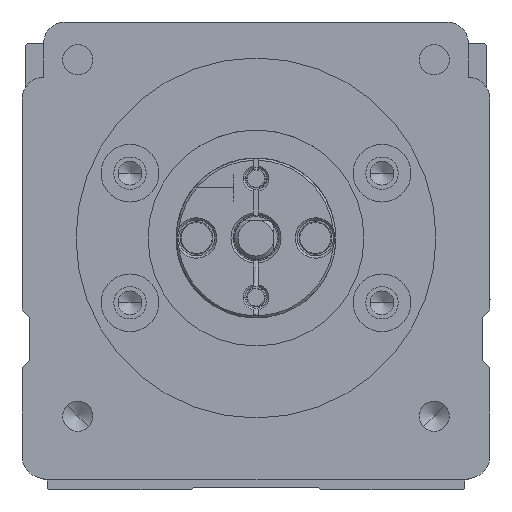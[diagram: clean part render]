
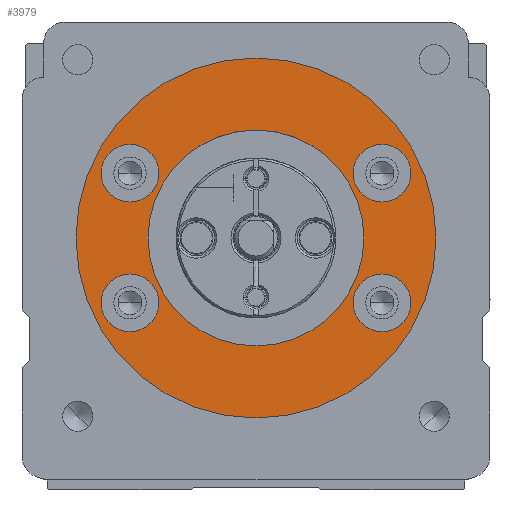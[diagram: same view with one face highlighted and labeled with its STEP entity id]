
A CAD part, front view. The second image highlights one B-rep face of the part: STEP entity #3979.
In plain terms, the highlighted planar face has unit normal (0, -1, 0).
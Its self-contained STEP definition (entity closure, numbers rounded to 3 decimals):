
#3979=ADVANCED_FACE('',(#9441,#9442,#9443,#9444,#9445,#9446),#9447,.F.);
#9441=FACE_BOUND('',#17365,.T.);
#9442=FACE_BOUND('',#17366,.T.);
#9443=FACE_BOUND('',#17367,.T.);
#9444=FACE_BOUND('',#17368,.T.);
#9445=FACE_BOUND('',#17369,.T.);
#9446=FACE_OUTER_BOUND('',#17370,.T.);
#9447=PLANE('',#17371);
#17365=EDGE_LOOP('',(#28212,#28213));
#17366=EDGE_LOOP('',(#28214,#28215));
#17367=EDGE_LOOP('',(#28216,#28217));
#17368=EDGE_LOOP('',(#28218,#28219));
#17369=EDGE_LOOP('',(#28220,#28221));
#17370=EDGE_LOOP('',(#28222,#28223));
#17371=AXIS2_PLACEMENT_3D('',#28224,#28225,#28226);
#28212=ORIENTED_EDGE('',*,*,#47703,.T.);
#28213=ORIENTED_EDGE('',*,*,#47704,.T.);
#28214=ORIENTED_EDGE('',*,*,#47705,.T.);
#28215=ORIENTED_EDGE('',*,*,#46357,.T.);
#28216=ORIENTED_EDGE('',*,*,#47706,.T.);
#28217=ORIENTED_EDGE('',*,*,#47707,.T.);
#28218=ORIENTED_EDGE('',*,*,#47708,.T.);
#28219=ORIENTED_EDGE('',*,*,#47709,.T.);
#28220=ORIENTED_EDGE('',*,*,#47629,.T.);
#28221=ORIENTED_EDGE('',*,*,#47710,.T.);
#28222=ORIENTED_EDGE('',*,*,#46348,.T.);
#28223=ORIENTED_EDGE('',*,*,#47298,.T.);
#28224=CARTESIAN_POINT('',(300.,115.0,0.));
#28225=DIRECTION('',(0.,1.0,0.));
#28226=DIRECTION('',(1.0,0.,0.));
#46348=EDGE_CURVE('',#55655,#55660,#55662,.T.);
#46357=EDGE_CURVE('',#55671,#55675,#55677,.T.);
#47298=EDGE_CURVE('',#55660,#55655,#57266,.T.);
#47629=EDGE_CURVE('',#57822,#57820,#57823,.T.);
#47703=EDGE_CURVE('',#57946,#57947,#57948,.T.);
#47704=EDGE_CURVE('',#57947,#57946,#57949,.T.);
#47705=EDGE_CURVE('',#55675,#55671,#57950,.T.);
#47706=EDGE_CURVE('',#57951,#57952,#57953,.T.);
#47707=EDGE_CURVE('',#57952,#57951,#57954,.T.);
#47708=EDGE_CURVE('',#57955,#57956,#57957,.T.);
#47709=EDGE_CURVE('',#57956,#57955,#57958,.T.);
#47710=EDGE_CURVE('',#57820,#57822,#57959,.T.);
#55655=VERTEX_POINT('',#68807);
#55660=VERTEX_POINT('',#68813);
#55662=CIRCLE('',#68816,25.0);
#55671=VERTEX_POINT('',#68828);
#55675=VERTEX_POINT('',#68833);
#55677=CIRCLE('',#68836,4.0);
#57266=CIRCLE('',#71131,25.0);
#57820=VERTEX_POINT('',#71928);
#57822=VERTEX_POINT('',#71931);
#57823=CIRCLE('',#71932,15.0);
#57946=VERTEX_POINT('',#72194);
#57947=VERTEX_POINT('',#72195);
#57948=CIRCLE('',#72196,4.0);
#57949=CIRCLE('',#72197,4.0);
#57950=CIRCLE('',#72198,4.0);
#57951=VERTEX_POINT('',#72199);
#57952=VERTEX_POINT('',#72200);
#57953=CIRCLE('',#72201,4.0);
#57954=CIRCLE('',#72202,4.0);
#57955=VERTEX_POINT('',#72203);
#57956=VERTEX_POINT('',#72204);
#57957=CIRCLE('',#72205,4.0);
#57958=CIRCLE('',#72206,4.0);
#57959=CIRCLE('',#72207,15.0);
#68807=CARTESIAN_POINT('',(325.,115.0,0.));
#68813=CARTESIAN_POINT('',(275.,115.0,0.));
#68816=AXIS2_PLACEMENT_3D('',#85053,#85054,#85055);
#68828=CARTESIAN_POINT('',(313.5,115.0,-9.));
#68833=CARTESIAN_POINT('',(321.5,115.0,-9.));
#68836=AXIS2_PLACEMENT_3D('',#85064,#85065,#85066);
#71131=AXIS2_PLACEMENT_3D('',#86276,#86277,#86278);
#71928=CARTESIAN_POINT('',(315.,115.0,0.));
#71931=CARTESIAN_POINT('',(285.,115.0,0.));
#71932=AXIS2_PLACEMENT_3D('',#86655,#86656,#86657);
#72194=CARTESIAN_POINT('',(286.5,115.0,-9.));
#72195=CARTESIAN_POINT('',(278.5,115.0,-9.));
#72196=AXIS2_PLACEMENT_3D('',#86756,#86757,#86758);
#72197=AXIS2_PLACEMENT_3D('',#86759,#86760,#86761);
#72198=AXIS2_PLACEMENT_3D('',#86762,#86763,#86764);
#72199=CARTESIAN_POINT('',(286.5,115.0,9.));
#72200=CARTESIAN_POINT('',(278.5,115.0,9.));
#72201=AXIS2_PLACEMENT_3D('',#86765,#86766,#86767);
#72202=AXIS2_PLACEMENT_3D('',#86768,#86769,#86770);
#72203=CARTESIAN_POINT('',(321.5,115.0,9.));
#72204=CARTESIAN_POINT('',(313.5,115.0,9.));
#72205=AXIS2_PLACEMENT_3D('',#86771,#86772,#86773);
#72206=AXIS2_PLACEMENT_3D('',#86774,#86775,#86776);
#72207=AXIS2_PLACEMENT_3D('',#86777,#86778,#86779);
#85053=CARTESIAN_POINT('',(300.,115.0,0.));
#85054=DIRECTION('',(0.,-1.0,0.));
#85055=DIRECTION('',(1.0,0.,0.));
#85064=CARTESIAN_POINT('',(317.5,115.0,-9.));
#85065=DIRECTION('',(0.,1.0,0.));
#85066=DIRECTION('',(-1.0,0.,0.));
#86276=CARTESIAN_POINT('',(300.,115.0,0.));
#86277=DIRECTION('',(0.,-1.0,0.));
#86278=DIRECTION('',(1.0,0.,0.));
#86655=CARTESIAN_POINT('',(300.,115.0,0.));
#86656=DIRECTION('',(0.,1.0,0.));
#86657=DIRECTION('',(1.0,0.,0.));
#86756=CARTESIAN_POINT('',(282.5,115.0,-9.));
#86757=DIRECTION('',(0.,1.0,0.));
#86758=DIRECTION('',(-1.0,0.,0.));
#86759=CARTESIAN_POINT('',(282.5,115.0,-9.));
#86760=DIRECTION('',(0.,1.0,0.));
#86761=DIRECTION('',(-1.0,0.,0.));
#86762=CARTESIAN_POINT('',(317.5,115.0,-9.));
#86763=DIRECTION('',(0.,1.0,0.));
#86764=DIRECTION('',(-1.0,0.,0.));
#86765=CARTESIAN_POINT('',(282.5,115.0,9.));
#86766=DIRECTION('',(0.,1.0,0.));
#86767=DIRECTION('',(-1.0,0.,0.));
#86768=CARTESIAN_POINT('',(282.5,115.0,9.));
#86769=DIRECTION('',(0.,1.0,0.));
#86770=DIRECTION('',(-1.0,0.,0.));
#86771=CARTESIAN_POINT('',(317.5,115.0,9.));
#86772=DIRECTION('',(0.,1.0,0.));
#86773=DIRECTION('',(-1.0,0.,0.));
#86774=CARTESIAN_POINT('',(317.5,115.0,9.));
#86775=DIRECTION('',(0.,1.0,0.));
#86776=DIRECTION('',(-1.0,0.,0.));
#86777=CARTESIAN_POINT('',(300.,115.0,0.));
#86778=DIRECTION('',(0.,1.0,0.));
#86779=DIRECTION('',(1.0,0.,0.));
